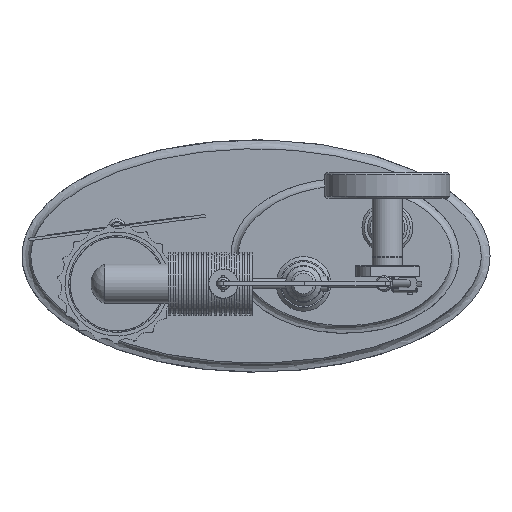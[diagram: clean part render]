
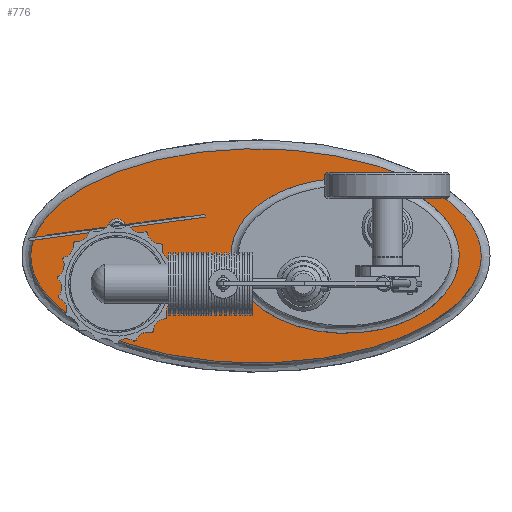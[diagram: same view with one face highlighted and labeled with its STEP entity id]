
A CAD part, top view. The second image highlights one B-rep face of the part: STEP entity #776.
In plain terms, the highlighted planar face has unit normal (0, 0, 1).
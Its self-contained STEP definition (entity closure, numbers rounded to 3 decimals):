
#140=CARTESIAN_POINT('',(-52.2,-11.1,10.0));
#141=VERTEX_POINT('',#140);
#142=CARTESIAN_POINT('',(-54.7,-11.1,10.0));
#143=DIRECTION('',(0.0,0.0,-1.0));
#144=DIRECTION('',(-1.0,0.0,0.0));
#145=AXIS2_PLACEMENT_3D('',#142,#143,#144);
#146=CIRCLE('',#145,2.5);
#147=EDGE_CURVE('',#141,#141,#146,.T.);
#188=CARTESIAN_POINT('',(-52.2,11.1,10.0));
#189=VERTEX_POINT('',#188);
#190=CARTESIAN_POINT('',(-54.7,11.1,10.0));
#191=DIRECTION('',(0.0,0.0,-1.0));
#192=DIRECTION('',(-1.0,0.0,0.0));
#193=AXIS2_PLACEMENT_3D('',#190,#191,#192);
#194=CIRCLE('',#193,2.5);
#195=EDGE_CURVE('',#189,#189,#194,.T.);
#236=CARTESIAN_POINT('',(63.8,-15.4,10.0));
#237=VERTEX_POINT('',#236);
#238=CARTESIAN_POINT('',(61.8,-15.4,10.0));
#239=DIRECTION('',(0.0,0.0,-1.0));
#240=DIRECTION('',(-1.0,0.0,0.0));
#241=AXIS2_PLACEMENT_3D('',#238,#239,#240);
#242=CIRCLE('',#241,2.0);
#243=EDGE_CURVE('',#237,#237,#242,.T.);
#284=CARTESIAN_POINT('',(10.3,-15.4,10.0));
#285=VERTEX_POINT('',#284);
#286=CARTESIAN_POINT('',(8.3,-15.4,10.0));
#287=DIRECTION('',(0.0,0.0,-1.0));
#288=DIRECTION('',(-1.0,0.0,0.0));
#289=AXIS2_PLACEMENT_3D('',#286,#287,#288);
#290=CIRCLE('',#289,2.0);
#291=EDGE_CURVE('',#285,#285,#290,.T.);
#332=CARTESIAN_POINT('',(10.3,15.4,10.0));
#333=VERTEX_POINT('',#332);
#334=CARTESIAN_POINT('',(8.3,15.4,10.0));
#335=DIRECTION('',(0.0,0.0,-1.0));
#336=DIRECTION('',(-1.0,0.0,0.0));
#337=AXIS2_PLACEMENT_3D('',#334,#335,#336);
#338=CIRCLE('',#337,2.0);
#339=EDGE_CURVE('',#333,#333,#338,.T.);
#380=CARTESIAN_POINT('',(63.8,15.4,10.0));
#381=VERTEX_POINT('',#380);
#382=CARTESIAN_POINT('',(61.8,15.4,10.0));
#383=DIRECTION('',(0.0,0.0,-1.0));
#384=DIRECTION('',(-1.0,0.0,0.0));
#385=AXIS2_PLACEMENT_3D('',#382,#383,#384);
#386=CIRCLE('',#385,2.0);
#387=EDGE_CURVE('',#381,#381,#386,.T.);
#617=CARTESIAN_POINT('',(-88.6,0.,10.0));
#618=VERTEX_POINT('',#617);
#626=CARTESIAN_POINT('',(-88.599,0.,10.));
#627=CARTESIAN_POINT('',(-88.599,-2.895,10.));
#628=CARTESIAN_POINT('',(-87.956,-5.789,10.));
#629=CARTESIAN_POINT('',(-86.612,-8.704,10.0));
#630=CARTESIAN_POINT('',(-85.268,-11.618,10.0));
#631=CARTESIAN_POINT('',(-83.224,-14.552,10.));
#632=CARTESIAN_POINT('',(-80.469,-17.392,10.));
#633=CARTESIAN_POINT('',(-77.714,-20.231,10.));
#634=CARTESIAN_POINT('',(-74.249,-22.977,10.));
#635=CARTESIAN_POINT('',(-70.158,-25.522,10.));
#636=CARTESIAN_POINT('',(-68.112,-26.794,10.));
#637=CARTESIAN_POINT('',(-65.911,-28.017,10.));
#638=CARTESIAN_POINT('',(-63.569,-29.18,10.));
#639=CARTESIAN_POINT('',(-61.227,-30.342,10.));
#640=CARTESIAN_POINT('',(-58.745,-31.446,10.));
#641=CARTESIAN_POINT('',(-56.138,-32.478,10.));
#642=CARTESIAN_POINT('',(-45.707,-36.605,10.));
#643=CARTESIAN_POINT('',(-33.264,-39.587,10.));
#644=CARTESIAN_POINT('',(-20.102,-41.079,10.0));
#645=CARTESIAN_POINT('',(-6.94,-42.57,10.0));
#646=CARTESIAN_POINT('',(6.942,-42.571,10.));
#647=CARTESIAN_POINT('',(20.103,-41.079,10.));
#648=CARTESIAN_POINT('',(33.264,-39.587,10.));
#649=CARTESIAN_POINT('',(45.705,-36.602,10.));
#650=CARTESIAN_POINT('',(56.137,-32.477,10.));
#651=CARTESIAN_POINT('',(61.353,-30.415,10.));
#652=CARTESIAN_POINT('',(66.068,-28.067,10.0));
#653=CARTESIAN_POINT('',(70.157,-25.521,10.0));
#654=CARTESIAN_POINT('',(74.247,-22.975,10.));
#655=CARTESIAN_POINT('',(77.712,-20.231,10.));
#656=CARTESIAN_POINT('',(80.468,-17.392,10.));
#657=CARTESIAN_POINT('',(82.306,-15.499,10.0));
#658=CARTESIAN_POINT('',(83.829,-13.564,10.0));
#659=CARTESIAN_POINT('',(85.036,-11.622,10.0));
#660=CARTESIAN_POINT('',(86.243,-9.681,10.0));
#661=CARTESIAN_POINT('',(87.134,-7.732,10.));
#662=CARTESIAN_POINT('',(87.723,-5.794,10.));
#663=CARTESIAN_POINT('',(88.312,-3.855,10.));
#664=CARTESIAN_POINT('',(88.599,-1.926,10.));
#665=CARTESIAN_POINT('',(88.599,0.,10.));
#666=CARTESIAN_POINT('',(88.6,1.927,10.0));
#667=CARTESIAN_POINT('',(88.315,3.852,10.0));
#668=CARTESIAN_POINT('',(87.724,5.791,10.0));
#669=CARTESIAN_POINT('',(86.543,9.67,10.0));
#670=CARTESIAN_POINT('',(84.142,13.61,10.0));
#671=CARTESIAN_POINT('',(80.47,17.391,10.0));
#672=CARTESIAN_POINT('',(76.798,21.171,10.0));
#673=CARTESIAN_POINT('',(71.854,24.793,10.0));
#674=CARTESIAN_POINT('',(65.864,27.999,10.0));
#675=CARTESIAN_POINT('',(59.873,31.204,10.0));
#676=CARTESIAN_POINT('',(52.836,33.993,10.0));
#677=CARTESIAN_POINT('',(45.087,36.213,10.0));
#678=CARTESIAN_POINT('',(37.338,38.433,10.));
#679=CARTESIAN_POINT('',(28.877,40.083,10.));
#680=CARTESIAN_POINT('',(20.101,41.077,10.));
#681=CARTESIAN_POINT('',(11.324,42.072,10.));
#682=CARTESIAN_POINT('',(2.233,42.41,10.0));
#683=CARTESIAN_POINT('',(-6.753,42.075,10.0));
#684=CARTESIAN_POINT('',(-15.738,41.741,10.));
#685=CARTESIAN_POINT('',(-24.618,40.734,10.0));
#686=CARTESIAN_POINT('',(-32.979,39.106,10.));
#687=CARTESIAN_POINT('',(-41.34,37.478,10.));
#688=CARTESIAN_POINT('',(-49.183,35.227,10.));
#689=CARTESIAN_POINT('',(-56.136,32.476,10.0));
#690=CARTESIAN_POINT('',(-61.352,30.412,10.));
#691=CARTESIAN_POINT('',(-66.067,28.067,10.));
#692=CARTESIAN_POINT('',(-70.158,25.522,10.));
#693=CARTESIAN_POINT('',(-74.248,22.976,10.));
#694=CARTESIAN_POINT('',(-77.714,20.231,10.0));
#695=CARTESIAN_POINT('',(-80.469,17.392,10.));
#696=CARTESIAN_POINT('',(-83.224,14.552,10.));
#697=CARTESIAN_POINT('',(-85.268,11.618,10.));
#698=CARTESIAN_POINT('',(-86.612,8.704,10.));
#699=CARTESIAN_POINT('',(-87.956,5.789,10.));
#700=CARTESIAN_POINT('',(-88.599,2.895,10.));
#701=CARTESIAN_POINT('',(-88.599,0.,10.));
#702=B_SPLINE_CURVE_WITH_KNOTS('',3,(#626,#627,#628,#629,#630,#631,#632,#633,#634,#635,#636,#637,#638,#639,#640,#641,#642,#643,#644,#645,#646,#647,#648,#649,#650,#651,#652,#653,#654,#655,#656,#657,#658,#659,#660,#661,#662,#663,#664,#665,#666,#667,#668,#669,#670,#671,#672,#673,#674,#675,#676,#677,#678,#679,#680,#681,#682,#683,#684,#685,#686,#687,#688,#689,#690,#691,#692,#693,#694,#695,#696,#697,#698,#699,#700,#701),.UNSPECIFIED.,.T.,.U.,(4,3,3,3,3,3,3,3,3,3,3,3,3,3,3,3,3,3,3,3,3,3,3,3,3,4),(29.318,30.44,31.562,32.684,33.245,33.806,36.051,38.295,40.54,41.662,42.784,43.532,44.28,45.028,45.776,47.273,48.769,50.265,51.761,53.258,54.754,56.25,57.372,58.494,59.617,60.739),.UNSPECIFIED.);
#703=EDGE_CURVE('',#618,#618,#702,.T.);
#750=CARTESIAN_POINT('',(0.0,0.0,10.0));
#751=DIRECTION('',(0.0,0.0,-1.0));
#752=DIRECTION('',(-1.0,0.0,0.0));
#753=AXIS2_PLACEMENT_3D('',#750,#751,#752);
#754=PLANE('',#753);
#755=ORIENTED_EDGE('',*,*,#703,.T.);
#756=EDGE_LOOP('',(#755));
#757=FACE_OUTER_BOUND('',#756,.T.);
#758=ORIENTED_EDGE('',*,*,#147,.T.);
#759=EDGE_LOOP('',(#758));
#760=FACE_BOUND('',#759,.T.);
#761=ORIENTED_EDGE('',*,*,#195,.T.);
#762=EDGE_LOOP('',(#761));
#763=FACE_BOUND('',#762,.T.);
#764=ORIENTED_EDGE('',*,*,#243,.T.);
#765=EDGE_LOOP('',(#764));
#766=FACE_BOUND('',#765,.T.);
#767=ORIENTED_EDGE('',*,*,#291,.T.);
#768=EDGE_LOOP('',(#767));
#769=FACE_BOUND('',#768,.T.);
#770=ORIENTED_EDGE('',*,*,#339,.T.);
#771=EDGE_LOOP('',(#770));
#772=FACE_BOUND('',#771,.T.);
#773=ORIENTED_EDGE('',*,*,#387,.T.);
#774=EDGE_LOOP('',(#773));
#775=FACE_BOUND('',#774,.T.);
#776=ADVANCED_FACE('',(#757,#760,#763,#766,#769,#772,#775),#754,.F.);
